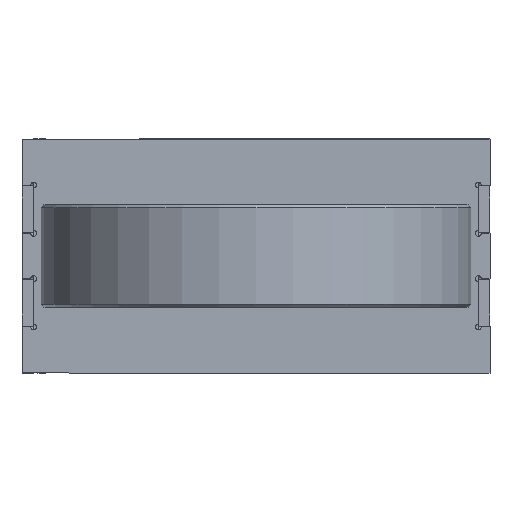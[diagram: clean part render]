
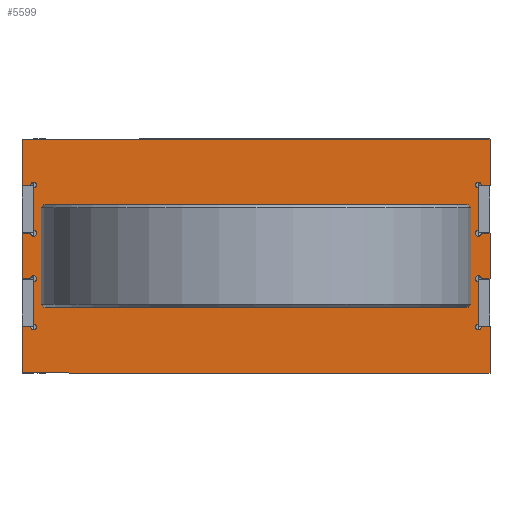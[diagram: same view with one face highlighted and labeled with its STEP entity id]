
A CAD part, front view. The second image highlights one B-rep face of the part: STEP entity #5599.
In plain terms, the highlighted planar face has unit normal (0, -1, 0) as drawn and (0, 0, -1) by its records, which use the part's own axes.
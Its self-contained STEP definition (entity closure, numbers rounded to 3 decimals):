
#391=LINE('',#9251,#826);
#394=LINE('',#9257,#829);
#397=LINE('',#9263,#832);
#400=LINE('',#9269,#835);
#403=LINE('',#9274,#838);
#404=LINE('',#9276,#839);
#405=LINE('',#9277,#840);
#406=LINE('',#9278,#841);
#407=LINE('',#9280,#842);
#408=LINE('',#9282,#843);
#409=LINE('',#9284,#844);
#410=LINE('',#9285,#845);
#411=LINE('',#9286,#846);
#412=LINE('',#9288,#847);
#413=LINE('',#9289,#848);
#414=LINE('',#9290,#849);
#415=LINE('',#9292,#850);
#416=LINE('',#9294,#851);
#417=LINE('',#9296,#852);
#418=LINE('',#9297,#853);
#826=VECTOR('',#7044,3.);
#829=VECTOR('',#7049,3.);
#832=VECTOR('',#7054,3.);
#835=VECTOR('',#7059,3.);
#838=VECTOR('',#7064,14.5);
#839=VECTOR('',#7065,3.);
#840=VECTOR('',#7066,15.5);
#841=VECTOR('',#7067,14.5);
#842=VECTOR('',#7068,3.);
#843=VECTOR('',#7069,15.75);
#844=VECTOR('',#7070,160.);
#845=VECTOR('',#7071,15.75);
#846=VECTOR('',#7072,14.5);
#847=VECTOR('',#7073,3.);
#848=VECTOR('',#7074,15.5);
#849=VECTOR('',#7075,14.5);
#850=VECTOR('',#7076,3.);
#851=VECTOR('',#7077,15.75);
#852=VECTOR('',#7078,160.);
#853=VECTOR('',#7079,15.75);
#1414=FACE_BOUND('',#2071,.T.);
#1415=FACE_BOUND('',#2072,.T.);
#1416=FACE_BOUND('',#2073,.T.);
#1649=FACE_OUTER_BOUND('',#2070,.T.);
#2070=EDGE_LOOP('',(#4478,#4479,#4480,#4481,#4482,#4483,#4484,#4485,#4486,
#4487,#4488,#4489,#4490,#4491,#4492,#4493,#4494,#4495,#4496,#4497,#4498,
#4499,#4500,#4501,#4502,#4503,#4504,#4505));
#2071=EDGE_LOOP('',(#4506));
#2072=EDGE_LOOP('',(#4507));
#2073=EDGE_LOOP('',(#4508));
#2336=CIRCLE('',#5998,5.5);
#2338=CIRCLE('',#6001,5.5);
#2340=CIRCLE('',#6004,17.5);
#2343=CIRCLE('',#6008,1.);
#2345=CIRCLE('',#6011,1.);
#2347=CIRCLE('',#6014,1.);
#2349=CIRCLE('',#6017,1.);
#2351=CIRCLE('',#6020,1.);
#2353=CIRCLE('',#6023,1.);
#2355=CIRCLE('',#6026,1.);
#2357=CIRCLE('',#6029,1.);
#2701=VERTEX_POINT('',#9163);
#2703=VERTEX_POINT('',#9168);
#2705=VERTEX_POINT('',#9173);
#2708=VERTEX_POINT('',#9179);
#2710=VERTEX_POINT('',#9183);
#2712=VERTEX_POINT('',#9188);
#2714=VERTEX_POINT('',#9192);
#2716=VERTEX_POINT('',#9197);
#2718=VERTEX_POINT('',#9201);
#2720=VERTEX_POINT('',#9206);
#2722=VERTEX_POINT('',#9210);
#2724=VERTEX_POINT('',#9215);
#2726=VERTEX_POINT('',#9219);
#2728=VERTEX_POINT('',#9224);
#2730=VERTEX_POINT('',#9228);
#2732=VERTEX_POINT('',#9233);
#2734=VERTEX_POINT('',#9237);
#2736=VERTEX_POINT('',#9242);
#2738=VERTEX_POINT('',#9246);
#2739=VERTEX_POINT('',#9250);
#2741=VERTEX_POINT('',#9256);
#2743=VERTEX_POINT('',#9262);
#2745=VERTEX_POINT('',#9268);
#2747=VERTEX_POINT('',#9275);
#2748=VERTEX_POINT('',#9279);
#2749=VERTEX_POINT('',#9281);
#2750=VERTEX_POINT('',#9283);
#2751=VERTEX_POINT('',#9287);
#2752=VERTEX_POINT('',#9291);
#2753=VERTEX_POINT('',#9293);
#2754=VERTEX_POINT('',#9295);
#3323=EDGE_CURVE('',#2701,#2701,#2336,.T.);
#3325=EDGE_CURVE('',#2703,#2703,#2338,.T.);
#3327=EDGE_CURVE('',#2705,#2705,#2340,.T.);
#3332=EDGE_CURVE('',#2708,#2710,#2343,.T.);
#3336=EDGE_CURVE('',#2712,#2714,#2345,.T.);
#3340=EDGE_CURVE('',#2716,#2718,#2347,.T.);
#3344=EDGE_CURVE('',#2720,#2722,#2349,.T.);
#3348=EDGE_CURVE('',#2724,#2726,#2351,.T.);
#3352=EDGE_CURVE('',#2728,#2730,#2353,.T.);
#3356=EDGE_CURVE('',#2732,#2734,#2355,.T.);
#3360=EDGE_CURVE('',#2736,#2738,#2357,.T.);
#3361=EDGE_CURVE('',#2708,#2739,#391,.T.);
#3364=EDGE_CURVE('',#2716,#2741,#394,.T.);
#3367=EDGE_CURVE('',#2724,#2743,#397,.T.);
#3370=EDGE_CURVE('',#2732,#2745,#400,.T.);
#3373=EDGE_CURVE('',#2712,#2710,#403,.T.);
#3374=EDGE_CURVE('',#2747,#2714,#404,.T.);
#3375=EDGE_CURVE('',#2741,#2747,#405,.T.);
#3376=EDGE_CURVE('',#2720,#2718,#406,.T.);
#3377=EDGE_CURVE('',#2748,#2722,#407,.T.);
#3378=EDGE_CURVE('',#2749,#2748,#408,.T.);
#3379=EDGE_CURVE('',#2750,#2749,#409,.T.);
#3380=EDGE_CURVE('',#2743,#2750,#410,.T.);
#3381=EDGE_CURVE('',#2728,#2726,#411,.T.);
#3382=EDGE_CURVE('',#2751,#2730,#412,.T.);
#3383=EDGE_CURVE('',#2745,#2751,#413,.T.);
#3384=EDGE_CURVE('',#2736,#2734,#414,.T.);
#3385=EDGE_CURVE('',#2752,#2738,#415,.T.);
#3386=EDGE_CURVE('',#2753,#2752,#416,.T.);
#3387=EDGE_CURVE('',#2754,#2753,#417,.T.);
#3388=EDGE_CURVE('',#2739,#2754,#418,.T.);
#4478=ORIENTED_EDGE('',*,*,#3332,.T.);
#4479=ORIENTED_EDGE('',*,*,#3373,.F.);
#4480=ORIENTED_EDGE('',*,*,#3336,.T.);
#4481=ORIENTED_EDGE('',*,*,#3374,.F.);
#4482=ORIENTED_EDGE('',*,*,#3375,.F.);
#4483=ORIENTED_EDGE('',*,*,#3364,.F.);
#4484=ORIENTED_EDGE('',*,*,#3340,.T.);
#4485=ORIENTED_EDGE('',*,*,#3376,.F.);
#4486=ORIENTED_EDGE('',*,*,#3344,.T.);
#4487=ORIENTED_EDGE('',*,*,#3377,.F.);
#4488=ORIENTED_EDGE('',*,*,#3378,.F.);
#4489=ORIENTED_EDGE('',*,*,#3379,.F.);
#4490=ORIENTED_EDGE('',*,*,#3380,.F.);
#4491=ORIENTED_EDGE('',*,*,#3367,.F.);
#4492=ORIENTED_EDGE('',*,*,#3348,.T.);
#4493=ORIENTED_EDGE('',*,*,#3381,.F.);
#4494=ORIENTED_EDGE('',*,*,#3352,.T.);
#4495=ORIENTED_EDGE('',*,*,#3382,.F.);
#4496=ORIENTED_EDGE('',*,*,#3383,.F.);
#4497=ORIENTED_EDGE('',*,*,#3370,.F.);
#4498=ORIENTED_EDGE('',*,*,#3356,.T.);
#4499=ORIENTED_EDGE('',*,*,#3384,.F.);
#4500=ORIENTED_EDGE('',*,*,#3360,.T.);
#4501=ORIENTED_EDGE('',*,*,#3385,.F.);
#4502=ORIENTED_EDGE('',*,*,#3386,.F.);
#4503=ORIENTED_EDGE('',*,*,#3387,.F.);
#4504=ORIENTED_EDGE('',*,*,#3388,.F.);
#4505=ORIENTED_EDGE('',*,*,#3361,.F.);
#4506=ORIENTED_EDGE('',*,*,#3323,.T.);
#4507=ORIENTED_EDGE('',*,*,#3325,.T.);
#4508=ORIENTED_EDGE('',*,*,#3327,.T.);
#5308=PLANE('',#6034);
#5599=ADVANCED_FACE('',(#1649,#1414,#1415,#1416),#5308,.F.);
#5998=AXIS2_PLACEMENT_3D('',#9164,#6962,#6963);
#6001=AXIS2_PLACEMENT_3D('',#9169,#6968,#6969);
#6004=AXIS2_PLACEMENT_3D('',#9174,#6974,#6975);
#6008=AXIS2_PLACEMENT_3D('',#9185,#6984,#6985);
#6011=AXIS2_PLACEMENT_3D('',#9194,#6992,#6993);
#6014=AXIS2_PLACEMENT_3D('',#9203,#7000,#7001);
#6017=AXIS2_PLACEMENT_3D('',#9212,#7008,#7009);
#6020=AXIS2_PLACEMENT_3D('',#9221,#7016,#7017);
#6023=AXIS2_PLACEMENT_3D('',#9230,#7024,#7025);
#6026=AXIS2_PLACEMENT_3D('',#9239,#7032,#7033);
#6029=AXIS2_PLACEMENT_3D('',#9248,#7040,#7041);
#6034=AXIS2_PLACEMENT_3D('',#9273,#7062,#7063);
#6962=DIRECTION('center_axis',(0.,0.,1.));
#6963=DIRECTION('ref_axis',(1.,0.,0.));
#6968=DIRECTION('center_axis',(0.,0.,1.));
#6969=DIRECTION('ref_axis',(1.,0.,0.));
#6974=DIRECTION('center_axis',(0.,0.,1.));
#6975=DIRECTION('ref_axis',(1.,0.,0.));
#6984=DIRECTION('center_axis',(0.,0.,1.));
#6985=DIRECTION('ref_axis',(1.,0.,0.));
#6992=DIRECTION('center_axis',(0.,0.,1.));
#6993=DIRECTION('ref_axis',(1.,0.,0.));
#7000=DIRECTION('center_axis',(0.,0.,1.));
#7001=DIRECTION('ref_axis',(1.,0.,0.));
#7008=DIRECTION('center_axis',(0.,0.,1.));
#7009=DIRECTION('ref_axis',(1.,0.,0.));
#7016=DIRECTION('center_axis',(0.,0.,1.));
#7017=DIRECTION('ref_axis',(1.,0.,0.));
#7024=DIRECTION('center_axis',(0.,0.,1.));
#7025=DIRECTION('ref_axis',(1.,0.,0.));
#7032=DIRECTION('center_axis',(0.,0.,1.));
#7033=DIRECTION('ref_axis',(1.,0.,0.));
#7040=DIRECTION('center_axis',(0.,0.,1.));
#7041=DIRECTION('ref_axis',(1.,0.,0.));
#7044=DIRECTION('',(1.,0.,0.));
#7049=DIRECTION('',(1.,0.,0.));
#7054=DIRECTION('',(-1.,0.,0.));
#7059=DIRECTION('',(-1.,0.,0.));
#7062=DIRECTION('center_axis',(0.,0.,1.));
#7063=DIRECTION('ref_axis',(1.,0.,0.));
#7064=DIRECTION('',(0.,1.,0.));
#7065=DIRECTION('',(-1.,0.,0.));
#7066=DIRECTION('',(0.,1.,0.));
#7067=DIRECTION('',(0.,1.,0.));
#7068=DIRECTION('',(-1.,0.,0.));
#7069=DIRECTION('',(0.,1.,0.));
#7070=DIRECTION('',(1.,0.,0.));
#7071=DIRECTION('',(0.,-1.,0.));
#7072=DIRECTION('',(0.,-1.,0.));
#7073=DIRECTION('',(1.,0.,0.));
#7074=DIRECTION('',(0.,-1.,0.));
#7075=DIRECTION('',(0.,-1.,0.));
#7076=DIRECTION('',(1.,0.,0.));
#7077=DIRECTION('',(0.,-1.,0.));
#7078=DIRECTION('',(-1.,0.,0.));
#7079=DIRECTION('',(0.,1.,0.));
#9163=CARTESIAN_POINT('',(-34.5,0.,0.));
#9164=CARTESIAN_POINT('Origin',(-29.,0.,0.));
#9168=CARTESIAN_POINT('',(23.5,0.,0.));
#9169=CARTESIAN_POINT('Origin',(29.,0.,0.));
#9173=CARTESIAN_POINT('',(-17.5,0.,0.));
#9174=CARTESIAN_POINT('Origin',(0.,0.,0.));
#9179=CARTESIAN_POINT('',(77.,24.25,0.));
#9183=CARTESIAN_POINT('',(76.,23.25,0.));
#9185=CARTESIAN_POINT('Origin',(76.,24.25,0.));
#9188=CARTESIAN_POINT('',(76.,8.75,0.));
#9192=CARTESIAN_POINT('',(77.,7.75,0.));
#9194=CARTESIAN_POINT('Origin',(76.,7.75,0.));
#9197=CARTESIAN_POINT('',(77.,-7.75,0.));
#9201=CARTESIAN_POINT('',(76.,-8.75,0.));
#9203=CARTESIAN_POINT('Origin',(76.,-7.75,0.));
#9206=CARTESIAN_POINT('',(76.,-23.25,0.));
#9210=CARTESIAN_POINT('',(77.,-24.25,0.));
#9212=CARTESIAN_POINT('Origin',(76.,-24.25,0.));
#9215=CARTESIAN_POINT('',(-77.,-24.25,0.));
#9219=CARTESIAN_POINT('',(-76.,-23.25,0.));
#9221=CARTESIAN_POINT('Origin',(-76.,-24.25,0.));
#9224=CARTESIAN_POINT('',(-76.,-8.75,0.));
#9228=CARTESIAN_POINT('',(-77.,-7.75,0.));
#9230=CARTESIAN_POINT('Origin',(-76.,-7.75,0.));
#9233=CARTESIAN_POINT('',(-77.,7.75,0.));
#9237=CARTESIAN_POINT('',(-76.,8.75,0.));
#9239=CARTESIAN_POINT('Origin',(-76.,7.75,0.));
#9242=CARTESIAN_POINT('',(-76.,23.25,0.));
#9246=CARTESIAN_POINT('',(-77.,24.25,0.));
#9248=CARTESIAN_POINT('Origin',(-76.,24.25,0.));
#9250=CARTESIAN_POINT('',(80.,24.25,0.));
#9251=CARTESIAN_POINT('',(76.,24.25,0.));
#9256=CARTESIAN_POINT('',(80.,-7.75,0.));
#9257=CARTESIAN_POINT('',(76.,-7.75,0.));
#9262=CARTESIAN_POINT('',(-80.,-24.25,0.));
#9263=CARTESIAN_POINT('',(-76.,-24.25,0.));
#9268=CARTESIAN_POINT('',(-80.,7.75,0.));
#9269=CARTESIAN_POINT('',(-76.,7.75,0.));
#9273=CARTESIAN_POINT('Origin',(0.,0.,
0.));
#9274=CARTESIAN_POINT('',(76.,7.75,0.));
#9275=CARTESIAN_POINT('',(80.,7.75,0.));
#9276=CARTESIAN_POINT('',(80.,7.75,0.));
#9277=CARTESIAN_POINT('',(80.,-7.75,0.));
#9278=CARTESIAN_POINT('',(76.,-24.25,0.));
#9279=CARTESIAN_POINT('',(80.,-24.25,0.));
#9280=CARTESIAN_POINT('',(80.,-24.25,0.));
#9281=CARTESIAN_POINT('',(80.,-40.,0.));
#9282=CARTESIAN_POINT('',(80.,-40.,0.));
#9283=CARTESIAN_POINT('',(-80.,-40.,0.));
#9284=CARTESIAN_POINT('',(-80.,-40.,0.));
#9285=CARTESIAN_POINT('',(-80.,-24.25,0.));
#9286=CARTESIAN_POINT('',(-76.,-7.75,0.));
#9287=CARTESIAN_POINT('',(-80.,-7.75,0.));
#9288=CARTESIAN_POINT('',(-80.,-7.75,0.));
#9289=CARTESIAN_POINT('',(-80.,7.75,0.));
#9290=CARTESIAN_POINT('',(-76.,24.25,0.));
#9291=CARTESIAN_POINT('',(-80.,24.25,0.));
#9292=CARTESIAN_POINT('',(-80.,24.25,0.));
#9293=CARTESIAN_POINT('',(-80.,40.,0.));
#9294=CARTESIAN_POINT('',(-80.,40.,0.));
#9295=CARTESIAN_POINT('',(80.,40.,0.));
#9296=CARTESIAN_POINT('',(80.,40.,0.));
#9297=CARTESIAN_POINT('',(80.,24.25,0.));
